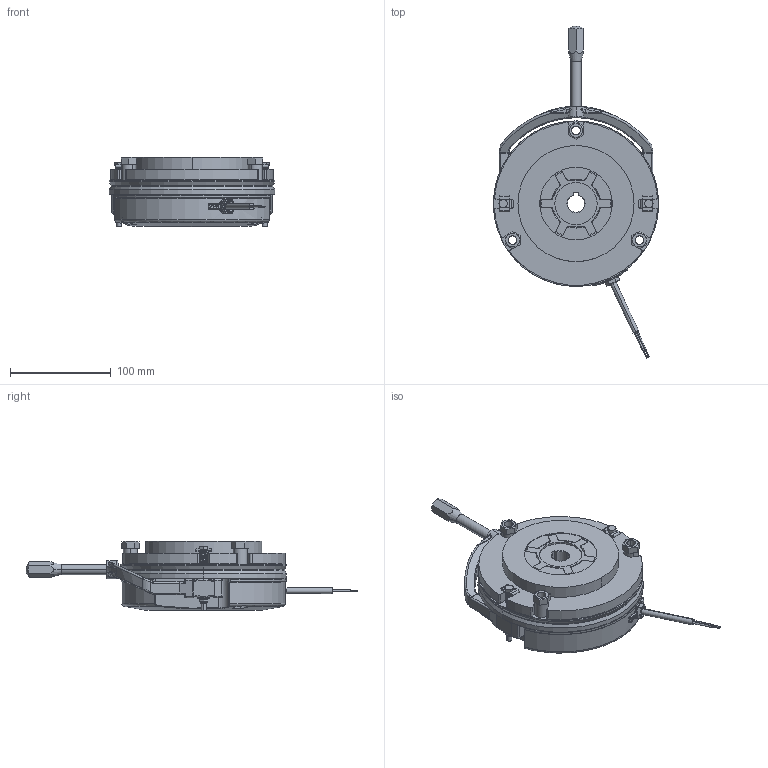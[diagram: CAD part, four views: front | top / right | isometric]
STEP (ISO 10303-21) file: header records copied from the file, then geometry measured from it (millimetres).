
FILE_DESCRIPTION (( 'STEP AP214' ), '1' );
FILE_NAME ('0638 mit HL.STEP', '2025-03-26T11:54:57', ( '' ), ( '' ), 'SwSTEP 2.0', 'SolidWorks 2022', '' );
FILE_SCHEMA (( 'AUTOMOTIVE_DESIGN' ));
Length unit declared in the file: millimetre
Products named in the file (7): 10068429_000; 10068441_000; 0638 mit HL; 10068430_000; 10068433_000; 10068432_000; 10068431_000
Assembly tree (8 placements, depth 2):
  0638 mit HL
    10068429_000
    10068431_000
    10068433_000
    10068430_000  x3
    10068432_000
    10068441_000
Bounding box: 164 x 328.91 x 68.8 mm (x, y, z)
Volume: 1171171.9 mm3; surface area: 190584.9 mm2
Topology: 20 solids, 20 shells, 1120 faces, 2762 edges, 1662 vertices
Faces by surface type: cylinder 390, plane 373, bspline 206, cone 86, torus 47, sphere 18
Entity records: 58471 total; most frequent: CARTESIAN_POINT 23948, ORIENTED_EDGE 5268, DIRECTION 4679, EDGE_CURVE 2634, AXIS2_PLACEMENT_3D 1781, VERTEX_POINT 1610, EDGE_LOOP 1156, VECTOR 1117
